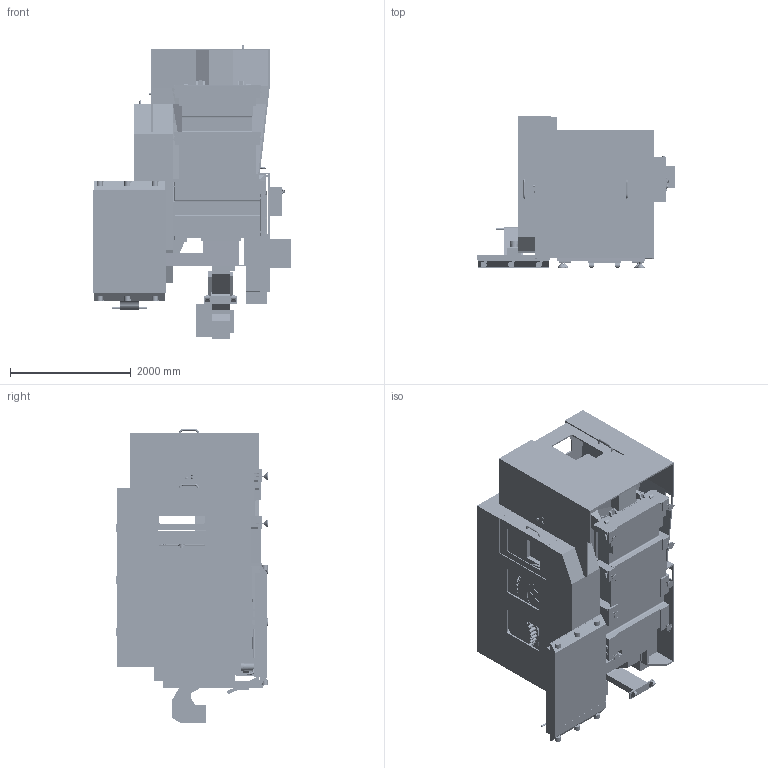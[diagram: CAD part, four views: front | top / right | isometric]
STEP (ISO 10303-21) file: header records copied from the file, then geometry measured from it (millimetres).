
FILE_DESCRIPTION (( 'STEP AP203' ), '1' );
FILE_NAME ('EC-400 w 160PKT_6_2026.STEP', '2026-06-05T20:32:51', ( '' ), ( '' ), 'SwSTEP 2.0', 'SolidWorks 2025', '' );
FILE_SCHEMA (( 'CONFIG_CONTROL_DESIGN' ));
Length unit declared in the file: inch
Products named in the file (24): EC-400- Y Axis; EC-400- Anchor Patterns; EC-400-Leveling Pads; EC-400-Pallet H Frame; EC-400 - 40T Spindle; EC-400-Base Casting; EC-400- Z Axis_ B Axis; EC-400-160 PKt Tool Changer; EC-400-95 Gallon Coolant Tank; EC-400- Metric Pallet 2; EC-400-Enclosure; EC-400- Standard Enclosure; EC-400-Chip Conveyor; EC-400-Control Panel; EC-400 - HSK Spindle; EC-400-CDF Conveyor; EC-400-160 pkt Enclosure; EC-400 w 160PKT_6_2026; EC-400-X Axis; EC-400- Inch Pallet 1; EC-400- Inch Pallet 2; EC-400-Tool Changer Arm Down; EC-400- Metric Pallet 1; EC-400-Tool Changer arm Up
Assembly tree (23 placements, depth 2):
  EC-400 w 160PKT_6_2026
    EC-400- Anchor Patterns
    EC-400-Leveling Pads
    EC-400-Base Casting
    EC-400-Pallet H Frame
    EC-400-X Axis
    EC-400- Y Axis
    EC-400- Z Axis_ B Axis
    EC-400- Inch Pallet 1
    EC-400- Metric Pallet 1
    EC-400- Inch Pallet 2
    EC-400- Metric Pallet 2
    EC-400-160 PKt Tool Changer
    EC-400-160 pkt Enclosure
    EC-400-Enclosure
    EC-400-Tool Changer arm Up
    EC-400-Tool Changer Arm Down
    EC-400-Control Panel
    EC-400-Chip Conveyor
    EC-400-CDF Conveyor
    EC-400-95 Gallon Coolant Tank
    EC-400 - 40T Spindle
    EC-400 - HSK Spindle
    EC-400- Standard Enclosure
Bounding box: 3271.4 x 2515.55 x 4875.43 mm (x, y, z)
Volume: 6829246479.2 mm3; surface area: 218156163.4 mm2
Topology: 78 solids, 95 shells, 11496 faces, 29877 edges, 18960 vertices
Faces by surface type: plane 5662, cylinder 3428, cone 1580, bspline 550, torus 202, sphere 74
Entity records: 419483 total; most frequent: CARTESIAN_POINT 139001, ORIENTED_EDGE 58822, DIRECTION 56992, EDGE_CURVE 29411, AXIS2_PLACEMENT_3D 19840, VERTEX_POINT 18959, LINE 17312, VECTOR 17312
